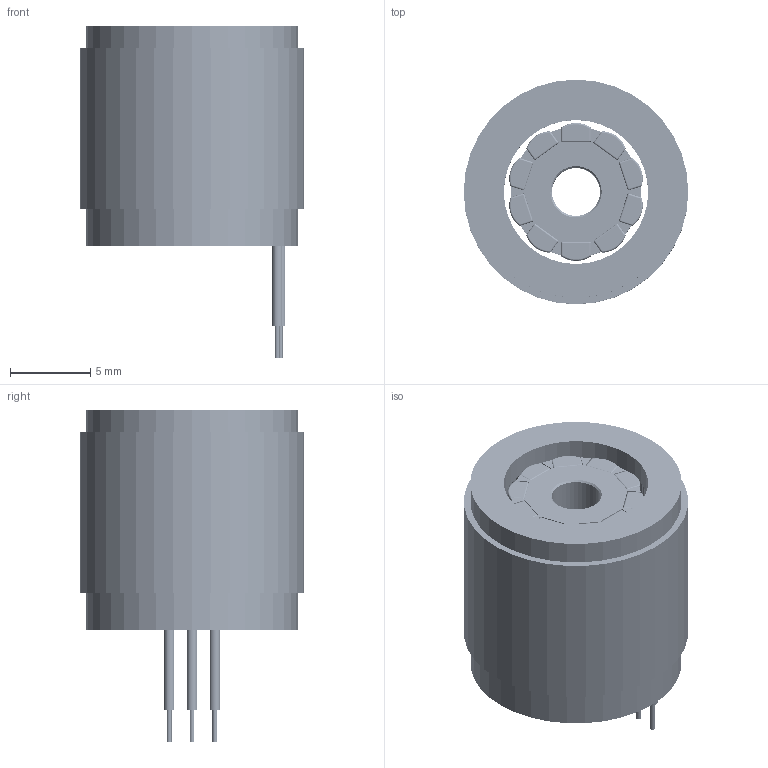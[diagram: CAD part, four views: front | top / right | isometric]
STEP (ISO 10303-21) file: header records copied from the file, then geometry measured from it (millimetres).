
FILE_DESCRIPTION (( 'STEP AP203' ), '1' );
FILE_NAME ('U1414 拸遺薯撻萇儂.STEP', '2026-06-24T02:30:51', ( 'Windows User' ), ( 'P R C' ), 'SwSTEP 2.0', 'SolidWorks 2023', '' );
FILE_SCHEMA (( 'CONFIG_CONTROL_DESIGN' ));
Length unit declared in the file: millimetre
Products named in the file (11): 胶水; U1414 磁钢; U1414 非出线端; U1414 轴; U1414 出线端; U1414 定子铁芯; U1414 无框力矩电机; U1414 电机定子装配; U1414 PCB板模型; U1414 电机转子装配; U1414 成型线圈
Assembly tree (39 placements, depth 3):
  U1414 无框力矩电机
    U1414 电机定子装配
      U1414 定子铁芯
      U1414 成型线圈  x12
      U1414 出线端
      U1414 非出线端
      U1414 PCB板模型
    U1414 电机转子装配
      U1414 轴
      U1414 磁钢  x10
      胶水  x10
Bounding box: 14 x 14 x 20.7 mm (x, y, z)
Volume: 1638.4 mm3; surface area: 10199.8 mm2
Topology: 448 solids, 448 shells, 8060 faces, 19639 edges, 11558 vertices
Faces by surface type: cylinder 4423, torus 3380, plane 173, sphere 80, cone 4
Entity records: 27506 total; most frequent: DIRECTION 5299, CARTESIAN_POINT 4225, ORIENTED_EDGE 4158, AXIS2_PLACEMENT_3D 2334, EDGE_CURVE 2079, CIRCLE 1448, VERTEX_POINT 1260, EDGE_LOOP 855
